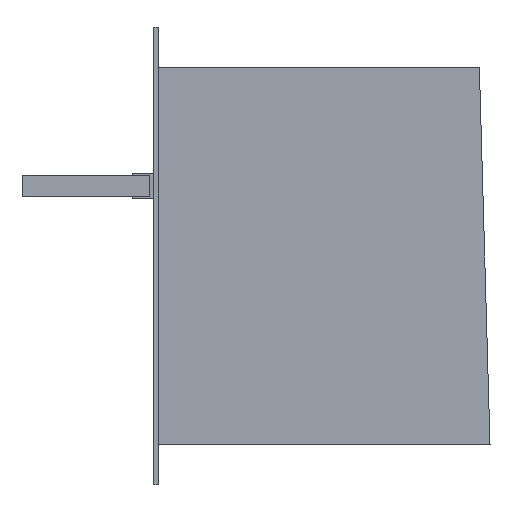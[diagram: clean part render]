
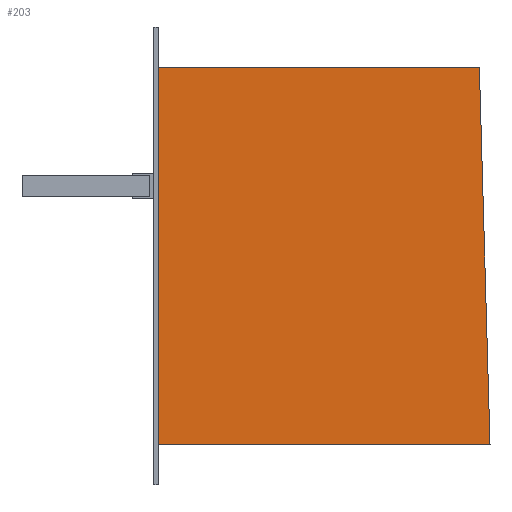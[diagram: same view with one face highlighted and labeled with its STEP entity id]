
A CAD part, left-side view. The second image highlights one B-rep face of the part: STEP entity #203.
In plain terms, the highlighted planar face has unit normal (-1, 0, 0).
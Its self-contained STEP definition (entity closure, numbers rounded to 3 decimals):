
#72 = ORIENTED_EDGE ( 'NONE', *, *, #961, .T. ) ;
#115 = EDGE_CURVE ( 'NONE', #373, #732, #1576, .T. ) ;
#178 = DIRECTION ( 'NONE',  ( 1., 0., 0. ) ) ;
#203 = ADVANCED_FACE ( 'NONE', ( #1711 ), #928, .F. ) ;
#248 = CARTESIAN_POINT ( 'NONE',  ( -341., 0., -88.5 ) ) ;
#250 = ORIENTED_EDGE ( 'NONE', *, *, #115, .T. ) ;
#373 = VERTEX_POINT ( 'NONE', #613 ) ;
#450 = LINE ( 'NONE', #600, #1525 ) ;
#565 = DIRECTION ( 'NONE',  ( 0., -1., 0. ) ) ;
#600 = CARTESIAN_POINT ( 'NONE',  ( -341., -151., 88.5 ) ) ;
#613 = CARTESIAN_POINT ( 'NONE',  ( -341., 0., 88.5 ) ) ;
#642 = AXIS2_PLACEMENT_3D ( 'NONE', #1534, #178, #779 ) ;
#693 = CARTESIAN_POINT ( 'NONE',  ( -341., 0., -88.5 ) ) ;
#732 = VERTEX_POINT ( 'NONE', #248 ) ;
#779 = DIRECTION ( 'NONE',  ( 0., 0., -1. ) ) ;
#871 = EDGE_CURVE ( 'NONE', #1517, #1742, #450, .T. ) ;
#919 = DIRECTION ( 'NONE',  ( 0., 1., 0. ) ) ;
#928 = PLANE ( 'NONE',  #642 ) ;
#933 = LINE ( 'NONE', #1546, #990 ) ;
#961 = EDGE_CURVE ( 'NONE', #1742, #373, #933, .T. ) ;
#968 = CARTESIAN_POINT ( 'NONE',  ( -341., 0., 88.5 ) ) ;
#990 = VECTOR ( 'NONE', #919, 1000. ) ;
#1001 = ORIENTED_EDGE ( 'NONE', *, *, #871, .T. ) ;
#1142 = CARTESIAN_POINT ( 'NONE',  ( -341., -151., 88.5 ) ) ;
#1176 = CARTESIAN_POINT ( 'NONE',  ( -341., -156., -88.5 ) ) ;
#1200 = DIRECTION ( 'NONE',  ( 0., 0.028, 1. ) ) ;
#1335 = LINE ( 'NONE', #693, #1527 ) ;
#1517 = VERTEX_POINT ( 'NONE', #1176 ) ;
#1525 = VECTOR ( 'NONE', #1200, 1000. ) ;
#1527 = VECTOR ( 'NONE', #565, 1000. ) ;
#1534 = CARTESIAN_POINT ( 'NONE',  ( -341., 2., 107.5 ) ) ;
#1538 = EDGE_LOOP ( 'NONE', ( #1831, #1001, #72, #250 ) ) ;
#1546 = CARTESIAN_POINT ( 'NONE',  ( -341., 0., 88.5 ) ) ;
#1566 = DIRECTION ( 'NONE',  ( 0., 0., -1. ) ) ;
#1576 = LINE ( 'NONE', #968, #1876 ) ;
#1711 = FACE_OUTER_BOUND ( 'NONE', #1538, .T. ) ;
#1742 = VERTEX_POINT ( 'NONE', #1142 ) ;
#1793 = EDGE_CURVE ( 'NONE', #732, #1517, #1335, .T. ) ;
#1831 = ORIENTED_EDGE ( 'NONE', *, *, #1793, .T. ) ;
#1876 = VECTOR ( 'NONE', #1566, 1000. ) ;
